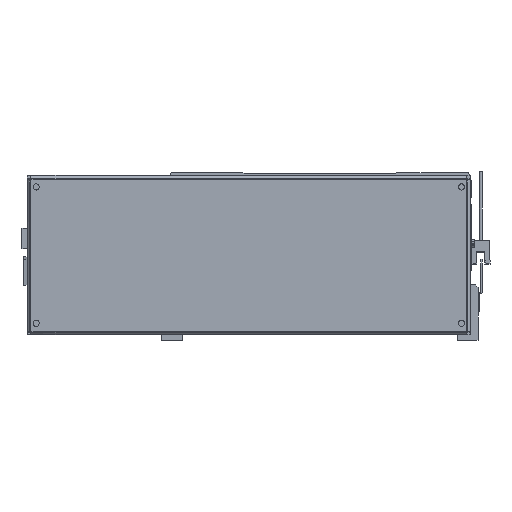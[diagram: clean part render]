
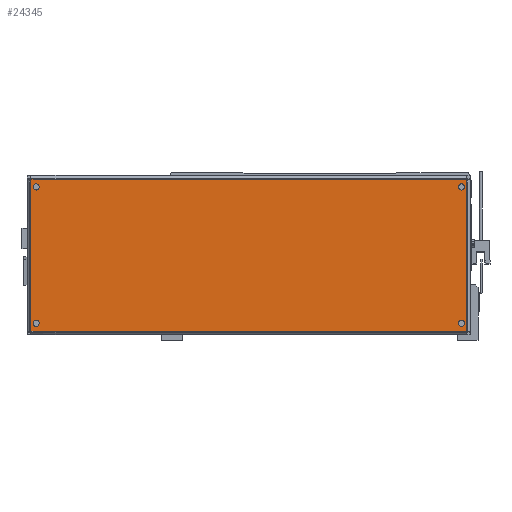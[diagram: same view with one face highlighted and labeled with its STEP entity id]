
A CAD part, front view. The second image highlights one B-rep face of the part: STEP entity #24345.
In plain terms, the highlighted planar face has unit normal (0, -1, 0) as drawn and (0, 0, 1) by its records, which use the part's own axes.
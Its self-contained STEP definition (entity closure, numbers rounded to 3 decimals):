
#1072 = CARTESIAN_POINT ( 'NONE',  ( -100.479, 32.63, 72. ) ) ;
#1294 = CARTESIAN_POINT ( 'NONE',  ( -98.229, -66.37, 72. ) ) ;
#1459 = CARTESIAN_POINT ( 'NONE',  ( -101.992, -72.133, 72. ) ) ;
#1595 = DIRECTION ( 'NONE',  ( 0., 0., 1. ) ) ;
#2787 = CARTESIAN_POINT ( 'NONE',  ( 214.535, 38.394, 72. ) ) ;
#3270 = CARTESIAN_POINT ( 'NONE',  ( 214.535, -72.133, 72. ) ) ;
#3393 = LINE ( 'NONE', #8819, #29858 ) ;
#3631 = AXIS2_PLACEMENT_3D ( 'NONE', #14066, #23789, #11299 ) ;
#3870 = ORIENTED_EDGE ( 'NONE', *, *, #22400, .F. ) ;
#4032 = DIRECTION ( 'NONE',  ( 0., 0., 1. ) ) ;
#4822 = EDGE_LOOP ( 'NONE', ( #3870, #14900 ) ) ;
#5122 = DIRECTION ( 'NONE',  ( 0., 0., 1. ) ) ;
#5203 = AXIS2_PLACEMENT_3D ( 'NONE', #14895, #7614, #22121 ) ;
#5248 = AXIS2_PLACEMENT_3D ( 'NONE', #21928, #29011, #19701 ) ;
#5643 = EDGE_CURVE ( 'NONE', #19035, #10274, #19154, .T. ) ;
#5743 = FACE_OUTER_BOUND ( 'NONE', #19238, .T. ) ;
#6419 = VECTOR ( 'NONE', #18386, 1000. ) ;
#6431 = VERTEX_POINT ( 'NONE', #1459 ) ;
#6798 = LINE ( 'NONE', #15632, #6419 ) ;
#7466 = EDGE_LOOP ( 'NONE', ( #8689, #28254 ) ) ;
#7614 = DIRECTION ( 'NONE',  ( 0., 0., 1. ) ) ;
#7867 = EDGE_CURVE ( 'NONE', #29842, #12769, #8594, .T. ) ;
#8294 = DIRECTION ( 'NONE',  ( 0., 0., 1. ) ) ;
#8558 = ORIENTED_EDGE ( 'NONE', *, *, #19194, .F. ) ;
#8594 = CIRCLE ( 'NONE', #17249, 2.25 ) ;
#8689 = ORIENTED_EDGE ( 'NONE', *, *, #5643, .F. ) ;
#8819 = CARTESIAN_POINT ( 'NONE',  ( -102.022, -72.133, 72. ) ) ;
#9027 = VERTEX_POINT ( 'NONE', #19873 ) ;
#9091 = VECTOR ( 'NONE', #14611, 1000. ) ;
#9906 = CARTESIAN_POINT ( 'NONE',  ( -101.992, 38.423, 72. ) ) ;
#10274 = VERTEX_POINT ( 'NONE', #16187 ) ;
#10593 = CARTESIAN_POINT ( 'NONE',  ( 213.021, -66.37, 72. ) ) ;
#11040 = VERTEX_POINT ( 'NONE', #17433 ) ;
#11299 = DIRECTION ( 'NONE',  ( 1., 0., 0. ) ) ;
#11471 = AXIS2_PLACEMENT_3D ( 'NONE', #18508, #1595, #13084 ) ;
#11841 = VERTEX_POINT ( 'NONE', #2787 ) ;
#11867 = ORIENTED_EDGE ( 'NONE', *, *, #16920, .F. ) ;
#11934 = EDGE_CURVE ( 'NONE', #30810, #11841, #6798, .T. ) ;
#12168 = FACE_BOUND ( 'NONE', #18735, .T. ) ;
#12731 = DIRECTION ( 'NONE',  ( 1., 0., 0. ) ) ;
#12769 = VERTEX_POINT ( 'NONE', #22268 ) ;
#13044 = CARTESIAN_POINT ( 'NONE',  ( 210.771, 32.63, 72. ) ) ;
#13084 = DIRECTION ( 'NONE',  ( 1., 0., 0. ) ) ;
#13426 = DIRECTION ( 'NONE',  ( 1., 0., 0. ) ) ;
#13716 = DIRECTION ( 'NONE',  ( -1., 0., 0. ) ) ;
#13958 = CARTESIAN_POINT ( 'NONE',  ( 210.771, -66.37, 72. ) ) ;
#14066 = CARTESIAN_POINT ( 'NONE',  ( -76.079, -40.83, 72. ) ) ;
#14165 = VECTOR ( 'NONE', #13716, 1000. ) ;
#14611 = DIRECTION ( 'NONE',  ( 0., -1., 0. ) ) ;
#14895 = CARTESIAN_POINT ( 'NONE',  ( -98.229, 32.63, 72. ) ) ;
#14900 = ORIENTED_EDGE ( 'NONE', *, *, #7867, .F. ) ;
#15632 = CARTESIAN_POINT ( 'NONE',  ( 214.535, -72.163, 72. ) ) ;
#16034 = DIRECTION ( 'NONE',  ( 0., 0., 1. ) ) ;
#16040 = LINE ( 'NONE', #22821, #14165 ) ;
#16187 = CARTESIAN_POINT ( 'NONE',  ( 208.521, -66.37, 72. ) ) ;
#16502 = PLANE ( 'NONE',  #3631 ) ;
#16718 = FACE_BOUND ( 'NONE', #4822, .T. ) ;
#16837 = CARTESIAN_POINT ( 'NONE',  ( -101.992, 38.394, 72. ) ) ;
#16920 = EDGE_CURVE ( 'NONE', #28009, #9027, #21655, .T. ) ;
#17044 = LINE ( 'NONE', #9906, #9091 ) ;
#17187 = CARTESIAN_POINT ( 'NONE',  ( -98.229, -66.37, 72. ) ) ;
#17249 = AXIS2_PLACEMENT_3D ( 'NONE', #13044, #8294, #12731 ) ;
#17433 = CARTESIAN_POINT ( 'NONE',  ( -100.479, -66.37, 72. ) ) ;
#17742 = EDGE_CURVE ( 'NONE', #29178, #6431, #17044, .T. ) ;
#18107 = AXIS2_PLACEMENT_3D ( 'NONE', #13958, #30680, #19074 ) ;
#18386 = DIRECTION ( 'NONE',  ( 0., 1., 0. ) ) ;
#18508 = CARTESIAN_POINT ( 'NONE',  ( 210.771, 32.63, 72. ) ) ;
#18735 = EDGE_LOOP ( 'NONE', ( #30231, #8558 ) ) ;
#18738 = EDGE_CURVE ( 'NONE', #9027, #28009, #26809, .T. ) ;
#19035 = VERTEX_POINT ( 'NONE', #10593 ) ;
#19074 = DIRECTION ( 'NONE',  ( 1., 0., 0. ) ) ;
#19154 = CIRCLE ( 'NONE', #5248, 2.25 ) ;
#19194 = EDGE_CURVE ( 'NONE', #11040, #29547, #24874, .T. ) ;
#19238 = EDGE_LOOP ( 'NONE', ( #19721, #23354, #27586, #28553 ) ) ;
#19701 = DIRECTION ( 'NONE',  ( 1., 0., 0. ) ) ;
#19721 = ORIENTED_EDGE ( 'NONE', *, *, #22431, .T. ) ;
#19873 = CARTESIAN_POINT ( 'NONE',  ( -95.979, 32.63, 72. ) ) ;
#20625 = EDGE_CURVE ( 'NONE', #29547, #11040, #31250, .T. ) ;
#20713 = CIRCLE ( 'NONE', #18107, 2.25 ) ;
#20846 = DIRECTION ( 'NONE',  ( 1., 0., 0. ) ) ;
#20903 = EDGE_CURVE ( 'NONE', #10274, #19035, #20713, .T. ) ;
#21655 = CIRCLE ( 'NONE', #5203, 2.25 ) ;
#21767 = CIRCLE ( 'NONE', #11471, 2.25 ) ;
#21928 = CARTESIAN_POINT ( 'NONE',  ( 210.771, -66.37, 72. ) ) ;
#22065 = DIRECTION ( 'NONE',  ( 1., 0., 0. ) ) ;
#22121 = DIRECTION ( 'NONE',  ( 1., 0., 0. ) ) ;
#22191 = CARTESIAN_POINT ( 'NONE',  ( 208.521, 32.63, 72. ) ) ;
#22268 = CARTESIAN_POINT ( 'NONE',  ( 213.021, 32.63, 72. ) ) ;
#22400 = EDGE_CURVE ( 'NONE', #12769, #29842, #21767, .T. ) ;
#22431 = EDGE_CURVE ( 'NONE', #11841, #29178, #16040, .T. ) ;
#22813 = ORIENTED_EDGE ( 'NONE', *, *, #18738, .F. ) ;
#22821 = CARTESIAN_POINT ( 'NONE',  ( 214.564, 38.394, 72. ) ) ;
#23331 = DIRECTION ( 'NONE',  ( 1., 0., 0. ) ) ;
#23354 = ORIENTED_EDGE ( 'NONE', *, *, #17742, .T. ) ;
#23789 = DIRECTION ( 'NONE',  ( 0., 0., 1. ) ) ;
#24345 = ADVANCED_FACE ( 'NONE', ( #29580, #16718, #25786, #12168, #5743 ), #16502, .T. ) ;
#24874 = CIRCLE ( 'NONE', #31177, 2.25 ) ;
#25501 = EDGE_CURVE ( 'NONE', #6431, #30810, #3393, .T. ) ;
#25786 = FACE_BOUND ( 'NONE', #31020, .T. ) ;
#26809 = CIRCLE ( 'NONE', #30141, 2.25 ) ;
#27586 = ORIENTED_EDGE ( 'NONE', *, *, #25501, .T. ) ;
#28009 = VERTEX_POINT ( 'NONE', #1072 ) ;
#28254 = ORIENTED_EDGE ( 'NONE', *, *, #20903, .F. ) ;
#28553 = ORIENTED_EDGE ( 'NONE', *, *, #11934, .T. ) ;
#29011 = DIRECTION ( 'NONE',  ( 0., 0., 1. ) ) ;
#29178 = VERTEX_POINT ( 'NONE', #16837 ) ;
#29474 = AXIS2_PLACEMENT_3D ( 'NONE', #17187, #5122, #22065 ) ;
#29547 = VERTEX_POINT ( 'NONE', #30635 ) ;
#29580 = FACE_BOUND ( 'NONE', #7466, .T. ) ;
#29842 = VERTEX_POINT ( 'NONE', #22191 ) ;
#29858 = VECTOR ( 'NONE', #20846, 1000. ) ;
#30141 = AXIS2_PLACEMENT_3D ( 'NONE', #30521, #16034, #23331 ) ;
#30231 = ORIENTED_EDGE ( 'NONE', *, *, #20625, .F. ) ;
#30521 = CARTESIAN_POINT ( 'NONE',  ( -98.229, 32.63, 72. ) ) ;
#30635 = CARTESIAN_POINT ( 'NONE',  ( -95.979, -66.37, 72. ) ) ;
#30680 = DIRECTION ( 'NONE',  ( 0., 0., 1. ) ) ;
#30810 = VERTEX_POINT ( 'NONE', #3270 ) ;
#31020 = EDGE_LOOP ( 'NONE', ( #22813, #11867 ) ) ;
#31177 = AXIS2_PLACEMENT_3D ( 'NONE', #1294, #4032, #13426 ) ;
#31250 = CIRCLE ( 'NONE', #29474, 2.25 ) ;
